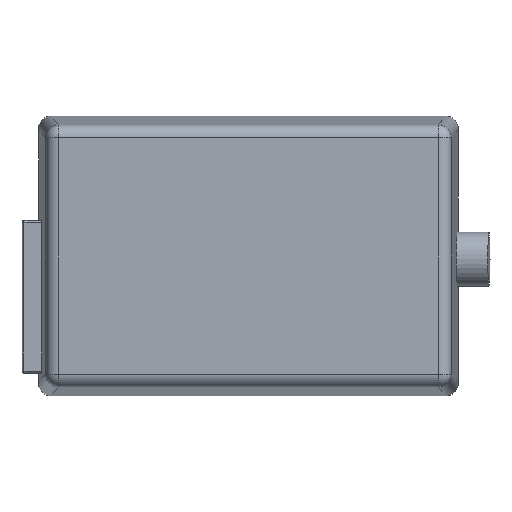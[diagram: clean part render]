
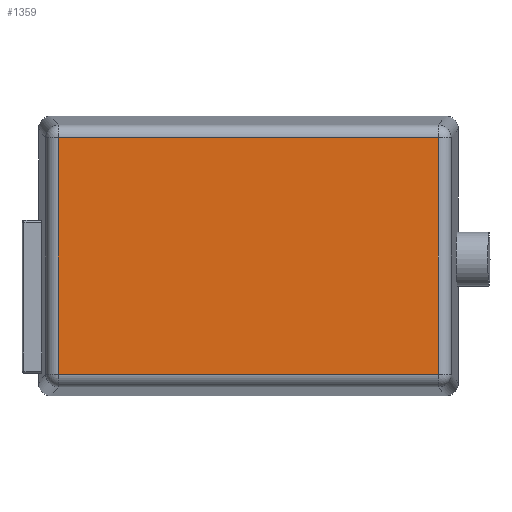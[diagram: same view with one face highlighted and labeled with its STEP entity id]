
A CAD part, front view. The second image highlights one B-rep face of the part: STEP entity #1359.
In plain terms, the highlighted planar face has unit normal (0, -1, 0).
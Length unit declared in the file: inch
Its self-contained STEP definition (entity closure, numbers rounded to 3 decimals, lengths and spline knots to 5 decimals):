
#1=DIRECTION('',(1.,0.,0.));
#2=VECTOR('',#1,2.98787);
#3=CARTESIAN_POINT('',(0.15607,0.,-2.02989));
#4=LINE('',#3,#2);
#5=DIRECTION('',(0.,0.,-1.));
#6=VECTOR('',#5,1.85978);
#7=CARTESIAN_POINT('',(0.15607,0.,-0.17011));
#8=LINE('',#7,#6);
#9=DIRECTION('',(-1.,0.,0.));
#10=VECTOR('',#9,2.98787);
#11=CARTESIAN_POINT('',(3.14393,0.,-0.17011));
#12=LINE('',#11,#10);
#13=DIRECTION('',(0.,0.,1.));
#14=VECTOR('',#13,1.85978);
#15=CARTESIAN_POINT('',(3.14393,0.,-2.02989));
#16=LINE('',#15,#14);
#1302=CARTESIAN_POINT('',(0.15607,0.,-2.02989));
#1303=CARTESIAN_POINT('',(3.14393,0.,-2.02989));
#1304=VERTEX_POINT('',#1302);
#1305=VERTEX_POINT('',#1303);
#1310=CARTESIAN_POINT('',(3.14393,0.,-0.17011));
#1311=VERTEX_POINT('',#1310);
#1316=CARTESIAN_POINT('',(0.15607,0.,-0.17011));
#1317=VERTEX_POINT('',#1316);
#1344=CARTESIAN_POINT('',(0.,0.,0.));
#1345=DIRECTION('',(0.,1.,0.));
#1346=DIRECTION('',(1.,0.,0.));
#1347=AXIS2_PLACEMENT_3D('',#1344,#1345,#1346);
#1348=PLANE('',#1347);
#1350=ORIENTED_EDGE('',*,*,#1349,.F.);
#1352=ORIENTED_EDGE('',*,*,#1351,.F.);
#1354=ORIENTED_EDGE('',*,*,#1353,.F.);
#1356=ORIENTED_EDGE('',*,*,#1355,.F.);
#1357=EDGE_LOOP('',(#1350,#1352,#1354,#1356));
#1358=FACE_OUTER_BOUND('',#1357,.F.);
#1359=ADVANCED_FACE('',(#1358),#1348,.F.);
#1349=EDGE_CURVE('',#1304,#1305,#4,.T.);
#1351=EDGE_CURVE('',#1317,#1304,#8,.T.);
#1353=EDGE_CURVE('',#1311,#1317,#12,.T.);
#1355=EDGE_CURVE('',#1305,#1311,#16,.T.);
